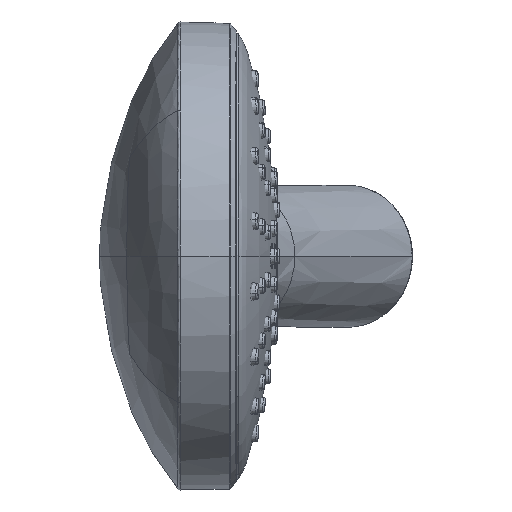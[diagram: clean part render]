
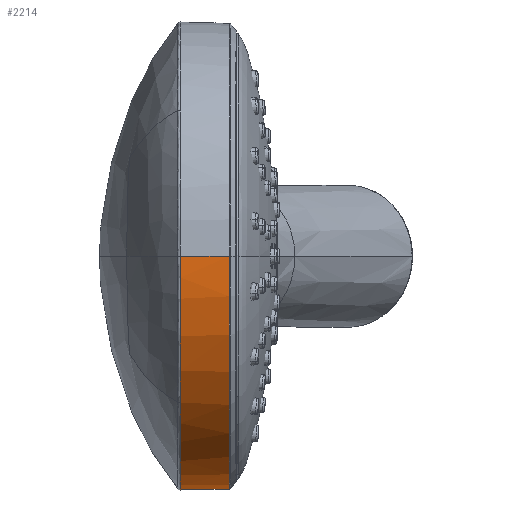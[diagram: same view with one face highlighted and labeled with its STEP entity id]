
A CAD part, left-side view. The second image highlights one B-rep face of the part: STEP entity #2214.
In plain terms, the highlighted conical face has half-angle 1.566 degrees and reference radius 50.049 mm.
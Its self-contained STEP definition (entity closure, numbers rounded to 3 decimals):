
#113=DIRECTION('',(-0.027,1.,0.));
#114=VECTOR('',#113,10.405);
#115=CARTESIAN_POINT('',(-49.906,0.212,
0.));
#116=LINE('',#115,#114);
#143=CARTESIAN_POINT('',(31.527,10.615,-39.052));
#144=CARTESIAN_POINT('',(29.474,10.617,-40.71));
#145=CARTESIAN_POINT('',(25.113,10.62,-43.696));
#146=CARTESIAN_POINT('',(17.944,10.629,-47.096));
#147=CARTESIAN_POINT('',(10.333,10.637,-49.329));
#148=CARTESIAN_POINT('',(2.465,10.646,-50.339));
#149=CARTESIAN_POINT('',(-5.464,10.654,-50.103));
#150=CARTESIAN_POINT('',(-13.258,10.661,-48.625));
#151=CARTESIAN_POINT('',(-20.723,10.668,-45.943));
#152=CARTESIAN_POINT('',(-27.675,10.673,-42.122));
#153=CARTESIAN_POINT('',(-33.942,10.678,-37.259));
#154=CARTESIAN_POINT('',(-37.558,10.681,-33.399));
#155=CARTESIAN_POINT('',(-39.204,10.682,-31.34));
#157=CARTESIAN_POINT('',(-39.204,10.682,-31.34));
#158=CARTESIAN_POINT('',(-40.606,10.682,-29.586));
#159=CARTESIAN_POINT('',(-43.182,10.679,-25.883));
#160=CARTESIAN_POINT('',(-46.272,10.656,-19.84));
#161=CARTESIAN_POINT('',(-48.534,10.637,-13.383));
#162=CARTESIAN_POINT('',(-49.888,10.618,-6.747));
#163=CARTESIAN_POINT('',(-50.19,10.614,-2.246));
#164=CARTESIAN_POINT('',(-50.19,10.613,
0.));
#166=CARTESIAN_POINT('',(0.,0.212,
0.));
#167=DIRECTION('',(0.,1.,0.));
#168=DIRECTION('',(0.628,0.,-0.778));
#169=AXIS2_PLACEMENT_3D('',#166,#167,#168);
#210=DIRECTION('',(-0.016,-1.,0.022));
#211=VECTOR('',#210,10.407);
#212=CARTESIAN_POINT('',(31.527,10.615,-39.052));
#213=LINE('',#212,#211);
#1943=CARTESIAN_POINT('',(-49.905,0.212,
0.));
#1944=VERTEX_POINT('',#1943);
#1945=CARTESIAN_POINT('',(-50.19,10.613,
0.));
#1946=VERTEX_POINT('',#1945);
#1949=CARTESIAN_POINT('',(31.353,0.212,
-38.827));
#1950=VERTEX_POINT('',#1949);
#1951=CARTESIAN_POINT('',(31.527,10.615,-39.052));
#1952=VERTEX_POINT('',#1951);
#1953=VERTEX_POINT('',#155);
#2198=CARTESIAN_POINT('',(0.,5.448,
0.));
#2199=DIRECTION('',(0.,1.,0.));
#2200=DIRECTION('',(0.628,0.,-0.778));
#2201=AXIS2_PLACEMENT_3D('',#2198,#2199,#2200);
#2202=CONICAL_SURFACE('',#2201,50.049,1.566);
#2204=ORIENTED_EDGE('',*,*,#2203,.F.);
#2206=ORIENTED_EDGE('',*,*,#2205,.F.);
#2208=ORIENTED_EDGE('',*,*,#2207,.T.);
#2210=ORIENTED_EDGE('',*,*,#2209,.T.);
#2211=ORIENTED_EDGE('',*,*,#2187,.F.);
#2212=EDGE_LOOP('',(#2204,#2206,#2208,#2210,#2211));
#2213=FACE_OUTER_BOUND('',#2212,.F.);
#2214=ADVANCED_FACE('',(#2213),#2202,.T.);
#156=B_SPLINE_CURVE_WITH_KNOTS('',3,(#143,#144,#145,#146,#147,#148,#149,#150,
#151,#152,#153,#154,#155),.UNSPECIFIED.,.F.,.F.,(4,1,1,1,1,1,1,1,1,1,4),(0.,
0.1,0.2,0.3,0.4,0.5,0.6,0.7,0.8,0.9,1.),.UNSPECIFIED.);
#165=B_SPLINE_CURVE_WITH_KNOTS('',3,(#157,#158,#159,#160,#161,#162,#163,#164),
.UNSPECIFIED.,.F.,.F.,(4,1,1,1,1,4),(0.,0.2,0.4,0.6,0.8,1.),
.UNSPECIFIED.);
#170=CIRCLE('',#169,49.906);
#2187=EDGE_CURVE('',#1944,#1946,#116,.T.);
#2203=EDGE_CURVE('',#1950,#1944,#170,.T.);
#2205=EDGE_CURVE('',#1952,#1950,#213,.T.);
#2207=EDGE_CURVE('',#1952,#1953,#156,.T.);
#2209=EDGE_CURVE('',#1953,#1946,#165,.T.);
